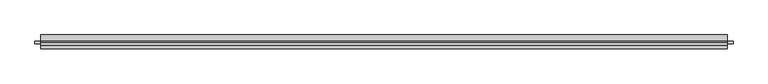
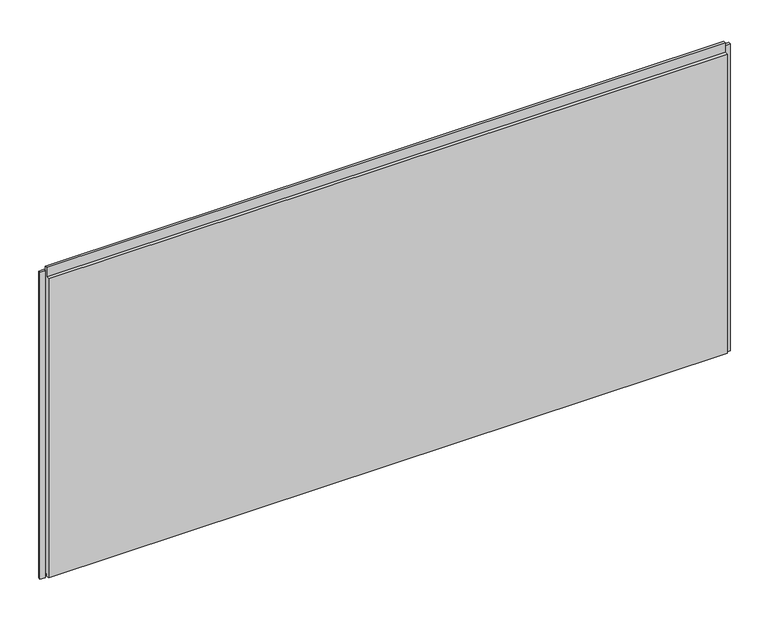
"""IFC4 building model written with IfcOpenShell, lengths in millimetres: plate geometry, Trimo_Qbiss Screen_Normal Panel-HORIZONTAL : HR - B."""

from ifc_helpers import new_model, si_unit, frame, origin, place, context, project, spatial, polyline, outline, extrude, source, transform, mapped, element, save


def plate_63a3148d(model_context):
    return source(origin(), model_context, "Body", "SweptSolid", [
        extrude(outline(polyline([(-1276.0, 76.5978162), (-1276.0, 67.8978162), (-1295.0, 67.8978162), (-1295.0, 76.5978162), (-1276.0, 76.5978162)])), frame((0.0, 0.0, -1.0), z_axis=(0.0, 0.0, 1.0), x_axis=(1.0, 0.0, 0.0)), (0.0, 0.0, 1.0), 1200.0),
        extrude(outline(polyline([(1240.5, 67.8978162), (1240.5, 76.5978162), (1259.5, 76.5978162), (1259.5, 67.8978162), (1240.5, 67.8978162)])), frame((0.0, 0.0, -1.0), z_axis=(0.0, 0.0, 1.0), x_axis=(1.0, 0.0, 0.0)), (0.0, 0.0, 1.0), 1200.0),
        extrude(outline(polyline([(1237.5, 76.0), (1237.5, 71.0), (-1273.0, 71.0), (-1273.0, 76.0), (1237.5, 76.0)])), frame((0.0, 0.0, 1178.0), z_axis=(0.0, 0.0, 1.0), x_axis=(1.0, 0.0, 0.0)), (0.0, 0.0, 1.0), 21.0),
        extrude(outline(polyline([(71.0, 1177.0), (100.0, 1177.0), (100.0, 0.0), (72.0, 0.0), (72.0, 15.5), (62.0, 15.5), (62.0, 7.0), (50.0, 7.0), (50.0, 1177.0), (63.0, 1177.0), (63.0, 1214.5), (71.0, 1214.5), (71.0, 1177.0)])), frame((-1273.0, 0.0, 0.0), z_axis=(1.0, 0.0, 0.0), x_axis=(0.0, 1.0, 0.0)), (0.0, 0.0, 1.0), 2510.5),
    ])


if __name__ == "__main__":
    model = new_model("IFC4")
    model_context = context("Model", 3, world=origin())
    ifc_project = project(units=[si_unit("LENGTHUNIT", "METRE", prefix="MILLI")], contexts=[model_context])
    site = spatial("IfcSite", under=ifc_project)
    building = spatial("IfcBuilding", under=site)
    placement = place(None, origin())
    plate_shape = plate_63a3148d(model_context)
    element("IfcPlate", 1, ObjectType="Trimo_Qbiss Screen_Normal Panel-HORIZONTAL : HR - B", at=placement, inside=building, context=model_context, shape_type="MappedRepresentation", body=[
        mapped(plate_shape, transform((0.0, 0.0, 0.0), x_axis=(1.0, 0.0, 0.0), y_axis=(0.0, 1.0, 0.0), z_axis=(0.0, 0.0, 1.0))),
    ])
    save(model, "model.ifc")
